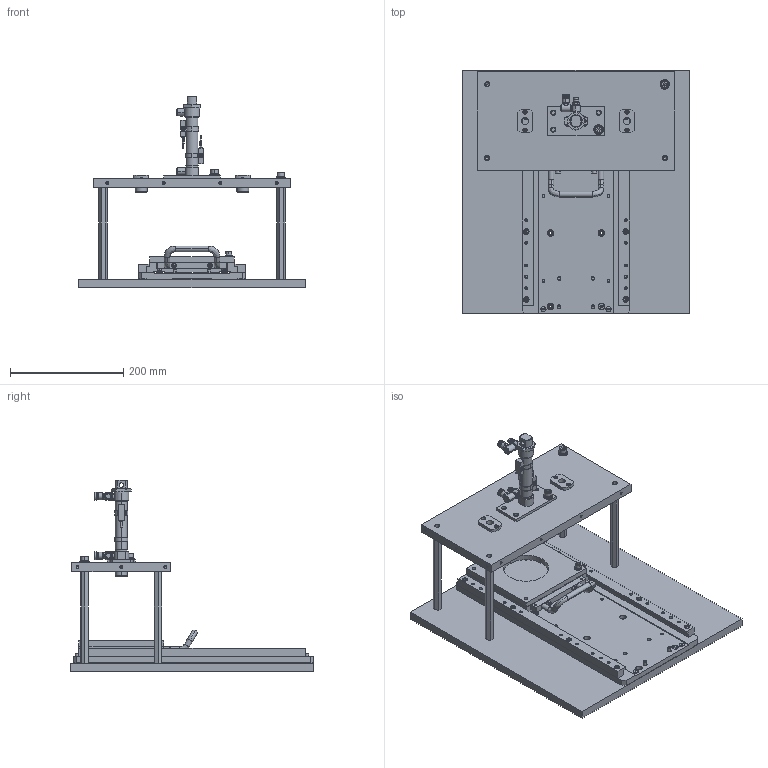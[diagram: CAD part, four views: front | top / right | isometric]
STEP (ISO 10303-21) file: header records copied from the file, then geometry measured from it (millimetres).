
FILE_DESCRIPTION (( 'STEP AP214' ), '1' );
FILE_NAME ('No000277_Base.STEP', '2020-07-16T06:42:39', ( '' ), ( '' ), 'SwSTEP 2.0', 'SolidWorks 2017', '' );
FILE_SCHEMA (( 'AUTOMOTIVE_DESIGN' ));
Length unit declared in the file: millimetre
Products named in the file (51): 0277_Z_001_JGR250_81; 0277_Z_001_JGR250_3; 0277_008_LHFC12; 0277_007_LSBWF13-162; 0277_Z_001_JGR250_7; 0277_Z_013_SCBS8-30_1; 0277_Z_001_JGR250_5; 0277_002_MSPCN20-50; 0277_Z_013_SCBS8-30_3; 0277_301_CBM4-8; 0277_Z_002_MSPCN20-50_2; 0277_015_MSRCS20; 0277_Z_015_MSRCS20_3; 0277_205_Bracket; 0277_Z_015_MSRCS20_1; 0277_Z_011_SCBS6-20_3; 0277_204_Work_Base; 0277_Z_012_SCBS8-20_3; 0277_Z_013_SCBS8-30_2; 0277_Z_001_JGR250_2; 0277_Z_001_JGR250_1; 0277_Z_001_JGR250_8; 0277_Z_012_SCBS8-20_2; 0277_Z_001_JGR250_852; 0277_004_SPSNS6-1; 0277_201_Base; 0277_Z_002_MSPCN20-50_3; _0277_SSA03; _0277_SSA02; No000277_Base; _0277_SA02; 0277_Z_015_MSRCS20_2; 0277_Z_012_SCBS8-20_1; 0277_Z_001_JGR250_4; 0277_Z_011_SCBS6-20_2; _0277_SSA01; 0277_Z_001_JGR250_851; 0277_Z_002_MSPCN20-50_1; 0277_302_CBM6-12; 0277_Z_001_JGR250_83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
Assembly tree (78 placements, depth 7):
  No000277_Base
    _0277_SA01
      0277_201_Base
      _0277_SSA01
        0277_001_JGR250
          0277_Z_001_JGR250_1
          0277_Z_001_JGR250_2  x4
          0277_Z_001_JGR250_3  x2
          0277_Z_001_JGR250_4  x8
          0277_Z_001_JGR250_5
          0277_Z_001_JGR250_6  x4
          0277_Z_001_JGR250_7  x4
          0277_Z_001_JGR250_8
            0277_Z_001_JGR250_81
            0277_Z_001_JGR250_82
            0277_Z_001_JGR250_83  x4
            0277_Z_001_JGR250_84  x2
            0277_Z_001_JGR250_85  x2
              0277_Z_001_JGR250_851
              0277_Z_001_JGR250_852
        0277_204_Work_Base
        0277_011_SCBS6-20
          0277_Z_011_SCBS6-20_1
          0277_Z_011_SCBS6-20_2
          0277_Z_011_SCBS6-20_3
        0277_302_CBM6-12
    _0277_SA02
      0277_202_Cylinder_Base
      _0277_SSA02
        0277_205_Bracket
        0277_002_MSPCN20-50
          0277_Z_002_MSPCN20-50_1
          0277_Z_002_MSPCN20-50_2
          0277_Z_002_MSPCN20-50_3
        0277_004_SPSNS6-1  x2
        0277_012_SCBS8-20
          0277_Z_012_SCBS8-20_1
          0277_Z_012_SCBS8-20_2
          0277_Z_012_SCBS8-20_3
        0277_015_MSRCS20  x2
          0277_Z_015_MSRCS20_1
          0277_Z_015_MSRCS20_2
          0277_Z_015_MSRCS20_3
      _0277_SSA03  x2
        0277_008_LHFC12
        0277_301_CBM4-8
      0277_007_LSBWF13-162  x4
      0277_013_SCBS8-30
        0277_Z_013_SCBS8-30_1
        0277_Z_013_SCBS8-30_2
        0277_Z_013_SCBS8-30_3
Bounding box: 400 x 430 x 339 mm (x, y, z)
Volume: 5317962.1 mm3; surface area: 987190.8 mm2
Topology: 69 solids, 69 shells, 2096 faces, 5049 edges, 3137 vertices
Faces by surface type: cylinder 756, plane 660, cone 580, bspline 100
Entity records: 48269 total; most frequent: CARTESIAN_POINT 10488, DIRECTION 7290, ORIENTED_EDGE 6356, EDGE_CURVE 3178, AXIS2_PLACEMENT_3D 2965, VERTEX_POINT 2027, EDGE_LOOP 1645, CIRCLE 1596
